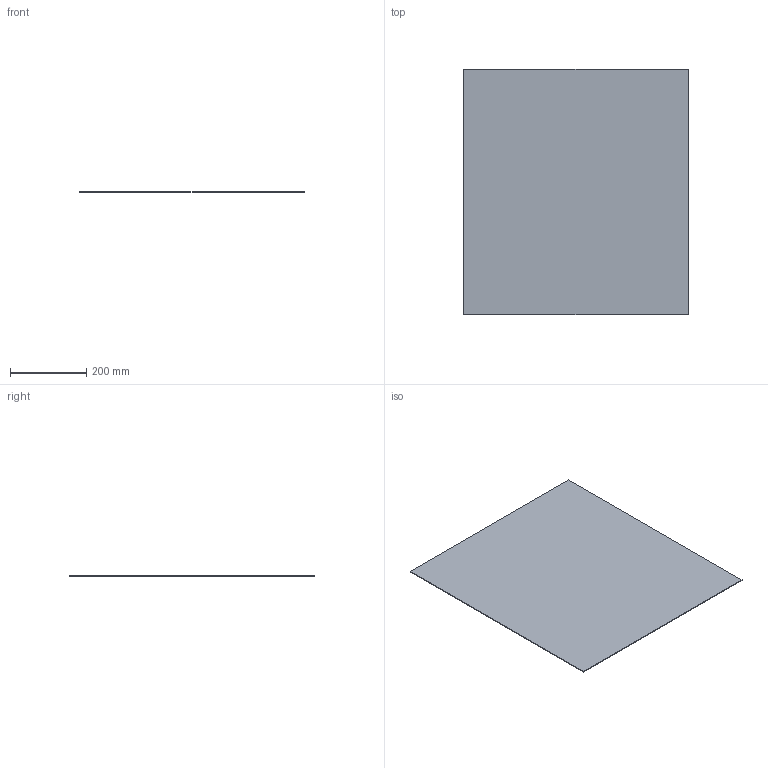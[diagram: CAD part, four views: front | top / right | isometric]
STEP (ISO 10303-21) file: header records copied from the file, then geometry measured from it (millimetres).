
FILE_DESCRIPTION(('Open CASCADE Model'),'2;1');
FILE_NAME('Open CASCADE Shape Model','2026-10-15T15:10:05',('Author'),( 'Open CASCADE'),'Open CASCADE STEP processor 8.0','Open CASCADE 8.0' ,'Unknown');
FILE_SCHEMA(('AUTOMOTIVE_DESIGN { 1 0 10303 214 1 1 1 1 }'));
Length unit declared in the file: millimetre
Products named in the file (1): MG12_GUARDA_FONDO_590x645x2_P05 126
Bounding box: 590 x 645 x 2 mm (x, y, z)
Volume: 761100 mm3; surface area: 766040 mm2
Topology: 1 solids, 1 shells, 6 faces, 12 edges, 8 vertices
Faces by surface type: plane 6
Entity records: 322 total; most frequent: CARTESIAN_POINT 51, DIRECTION 50, LINE 36, VECTOR 36, ORIENTED_EDGE 24, PCURVE 24, DEFINITIONAL_REPRESENTATION 24, EDGE_CURVE 12
